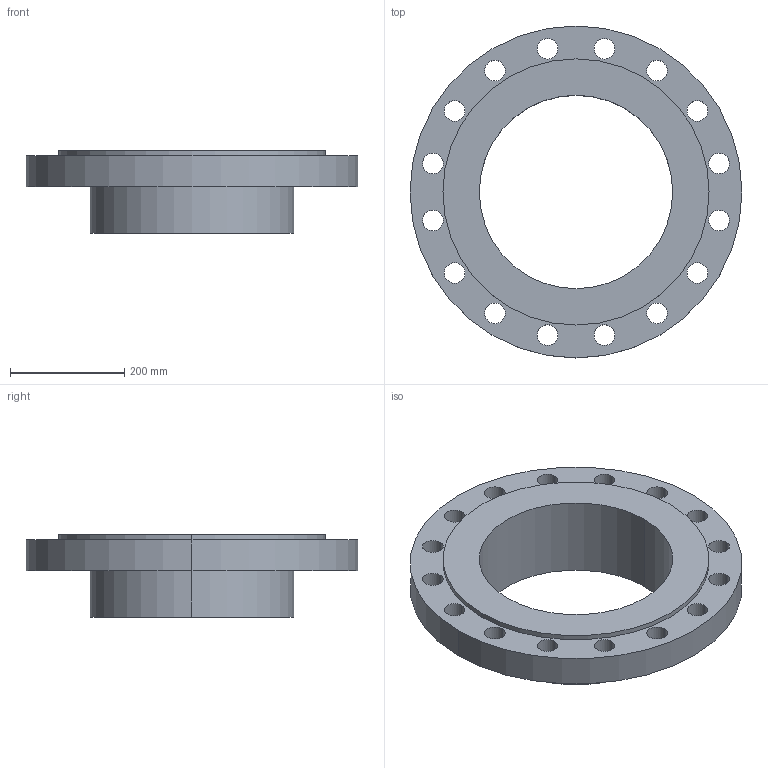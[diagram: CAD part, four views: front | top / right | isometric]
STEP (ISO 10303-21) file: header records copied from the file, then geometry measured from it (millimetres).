
FILE_DESCRIPTION (( 'STEP AP214' ), '1' );
FILE_NAME ('PN40 DN350 Type 02 in 33 - (Type A Face).STEP', '2019-01-05T21:57:53', ( '' ), ( '' ), 'SwSTEP 2.0', 'SolidWorks 2019', '' );
FILE_SCHEMA (( 'AUTOMOTIVE_DESIGN' ));
Length unit declared in the file: millimetre
Products named in the file (1): PN40 DN350 Type 02 in 33 - (Type A Face)
Bounding box: 580 x 580 x 143.8 mm (x, y, z)
Volume: 9735740 mm3; surface area: 1010721 mm2
Topology: 2 solids, 2 shells, 51 faces, 134 edges, 88 vertices
Faces by surface type: cylinder 42, plane 5, cone 4
Entity records: 1739 total; most frequent: DIRECTION 326, CARTESIAN_POINT 274, ORIENTED_EDGE 268, AXIS2_PLACEMENT_3D 140, EDGE_CURVE 134, CIRCLE 88, VERTEX_POINT 88, EDGE_LOOP 88
